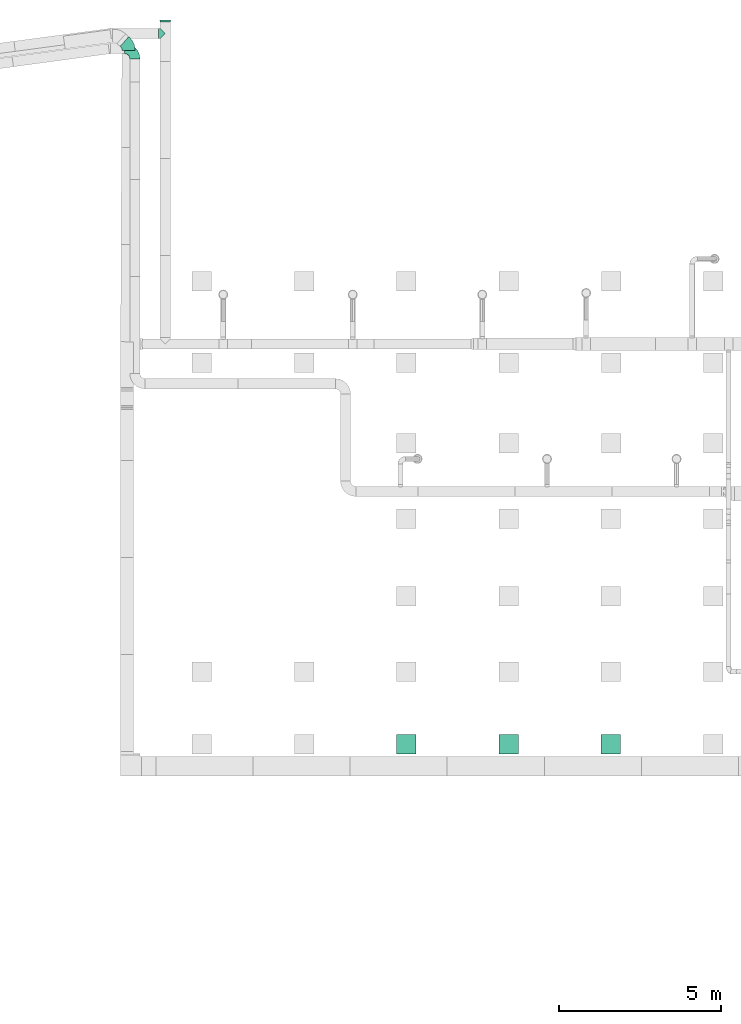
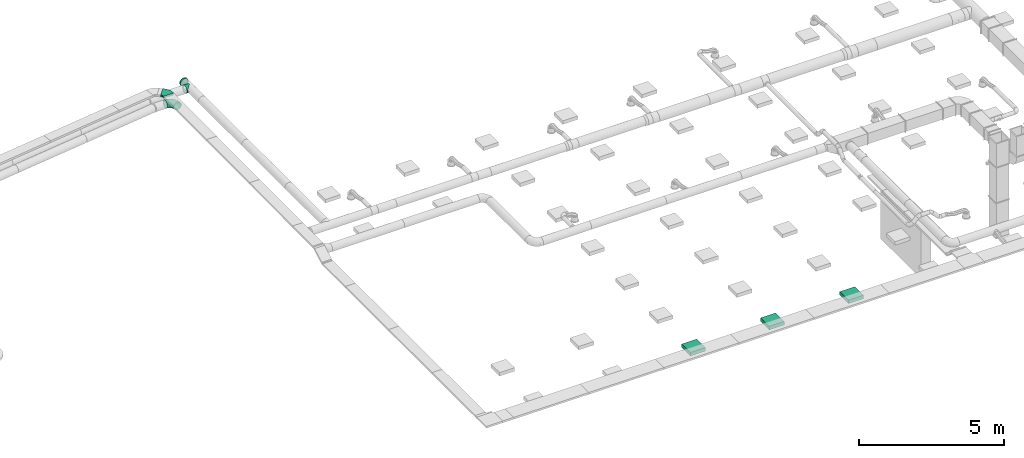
# One storey, part 19 of 119: 4 distribution elements, 2 flow fittings, 1 flow segment.
"""IFC2X3 building model written with IfcOpenShell, lengths in metres."""

from ifc_helpers import new_model, si_unit, direction, frame, frame_2d, origin, place, context, subcontext, project, spatial, rectangle, extrude, open_shell, surface_model, source, transform, mapped, element, save


model = new_model("IFC2X3")

# Units and contexts
model_context = context("Model", 3, precision=1e-05, world=origin(), true_north=direction((-0.4480736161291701, 0.8939966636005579)))
body_context = subcontext(model_context, "Body", "Model", "MODEL_VIEW")
ifc_project = project(units=[si_unit("LENGTHUNIT", "METRE"), si_unit("AREAUNIT", "SQUARE_METRE"), si_unit("VOLUMEUNIT", "CUBIC_METRE"), si_unit("PLANEANGLEUNIT", "RADIAN"), si_unit("THERMODYNAMICTEMPERATUREUNIT", "KELVIN"), si_unit("MASSUNIT", "GRAM", prefix="KILO"), si_unit("TIMEUNIT", "SECOND")], contexts=[model_context])

# Site, building, storey
site_placement = place(None, origin())
site = spatial("IfcSite", under=ifc_project, at=site_placement, Name="Site 1", CompositionType="ELEMENT")
building_placement = place(site_placement, origin())
building = spatial("IfcBuilding", under=site, at=building_placement, Name="Undefined", CompositionType="ELEMENT")
storey_placement = place(building_placement, frame((0.0, 0.0, 5.4)))
storey = spatial("IfcBuildingStorey", under=building, at=storey_placement, Name="R+1", CompositionType="ELEMENT", Elevation=5.4)

# Flow fittings
shared_shape_1 = source(origin(), body_context, "Body", "SurfaceModel", [
    surface_model("IfcFaceBasedSurfaceModel", [(0.12334725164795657, 0.0, -1.110223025e-15), (0.12264675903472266, 0.04110978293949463, -7.77156117e-16), (0.0007004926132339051, 0.041109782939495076, -7.77156117e-16), (0.0, 0.0, 0.0), (-0.1170905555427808, 0.04519480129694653, -0.031296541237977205), (-0.11914429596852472, 0.004131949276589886, -0.0316560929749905), (-0.22269912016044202, 0.05308645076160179, -0.0917568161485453), (-0.2259661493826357, 0.01211426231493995, -0.09281096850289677), (-0.3089281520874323, 0.06424692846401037, -0.1772605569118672), (-0.313185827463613, 0.023402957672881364, -0.17929702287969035), (-0.3699012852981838, 0.07791566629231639, -0.2819808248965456), (-0.3748594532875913, 0.03722872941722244, -0.285220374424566), (-0.4014633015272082, 0.09316116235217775, -0.39878110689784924), (-0.4067840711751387, 0.05264937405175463, -0.40336252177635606), (0.12059301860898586, 0.08079531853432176, -0.01055203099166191), (0.0027542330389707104, 0.08079531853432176, -0.01055203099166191), (-0.11106929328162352, 0.08474274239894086, -0.04079441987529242), (-0.21312067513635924, 0.09236857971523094, -0.09921822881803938), (-0.2964452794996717, 0.1031531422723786, -0.18184197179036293), (-0.3553646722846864, 0.11636147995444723, -0.2830349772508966), (-0.38586359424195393, 0.131093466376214, -0.39590110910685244), (0.11732598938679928, 0.11635210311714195, -0.03093698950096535), (0.006021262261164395, 0.1163521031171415, -0.030936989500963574), (-0.10149084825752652, 0.12008064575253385, -0.05950246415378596), (-0.19788356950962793, 0.12728363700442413, -0.11468672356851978), (-0.2765878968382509, 0.13747020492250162, -0.19272905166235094), (-0.3322402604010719, 0.14994615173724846, -0.28831099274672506), (-0.36104804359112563, 0.16386126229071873, -0.3949187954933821), (0.11306831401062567, 0.14535700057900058, -0.05976567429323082), (0.010278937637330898, 0.14535700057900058, -0.05976567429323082), (-0.08900797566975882, 0.14880029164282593, -0.08614575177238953), (-0.17802618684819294, 0.15545221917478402, -0.13710814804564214), (-0.25070925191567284, 0.16485946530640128, -0.2091798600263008), (-0.3021039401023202, 0.1763809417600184, -0.29744931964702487), (-0.32870778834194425, 0.189231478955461, -0.395901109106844), (0.10811014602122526, 0.16583337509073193, -0.09507345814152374), (0.015237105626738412, 0.16583337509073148, -0.09507345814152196), (-0.07447136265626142, 0.16894448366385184, -0.1189085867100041), (-0.15490177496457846, 0.17495468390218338, -0.16495451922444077), (-0.22057293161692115, 0.1834543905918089, -0.230073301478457), (-0.26700945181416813, 0.1938643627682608, -0.3098271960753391), (-0.2910467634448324, 0.20547517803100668, -0.3987811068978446), (0.10278937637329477, 0.17638579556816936, -0.13445417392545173), (0.020557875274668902, 0.17638579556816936, -0.1344541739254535), (-0.05887165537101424, 0.17914042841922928, -0.15555823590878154), (-0.13008622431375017, 0.18446197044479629, -0.1963281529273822), (-0.18823267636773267, 0.19198776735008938, -0.2539855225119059), (-0.22934842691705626, 0.20120494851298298, -0.324601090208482), (-0.2506315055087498, 0.21148537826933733, -0.40336252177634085), (0.09746860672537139, 0.17629513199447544, -0.17522409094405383), (0.025878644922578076, 0.17629513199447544, -0.17522409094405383), (-0.043271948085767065, 0.17869328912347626, -0.19359708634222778), (-0.10527067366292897, 0.18332617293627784, -0.22909098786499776), (-0.1558924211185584, 0.1898780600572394, -0.2792869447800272), (-0.1916874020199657, 0.19790245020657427, -0.3407641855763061), (-0.21021624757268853, 0.20685249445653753, -0.40933313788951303), (0.09251043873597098, 0.1655675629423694, -0.2146048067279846), (0.030836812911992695, 0.1655675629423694, -0.21460480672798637), (-0.028735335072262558, 0.1676335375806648, -0.2304328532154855), (-0.0821462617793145, 0.17162469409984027, -0.261010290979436), (-0.1257561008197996, 0.1772690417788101, -0.3042533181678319), (-0.1565929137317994, 0.18418192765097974, -0.35721499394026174), (-0.17255522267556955, 0.1918922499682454, -0.4162860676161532), (0.08825276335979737, 0.14493415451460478, -0.24991259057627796), (0.0350944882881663, 0.14493415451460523, -0.2499125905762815), (-0.01625246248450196, 0.1467148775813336, -0.2635552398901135), (-0.06228887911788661, 0.15015497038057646, -0.28991081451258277), (-0.09987745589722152, 0.15501999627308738, -0.32718322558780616), (-0.1264565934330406, 0.16097841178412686, -0.3728324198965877), (-0.14021496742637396, 0.16762416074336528, -0.4237474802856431), (0.08498573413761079, 0.11580103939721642, -0.27874127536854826), (0.03836151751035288, 0.11580103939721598, -0.2787412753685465), (-0.0066740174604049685, 0.11736288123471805, -0.2907070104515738), (-0.0470517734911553, 0.12038012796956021, -0.3138230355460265), (-0.08002007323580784, 0.12464715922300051, -0.34651403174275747), (-0.10333218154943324, 0.1298731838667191, -0.3865521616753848), (-0.11539941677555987, 0.13570205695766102, -0.43120889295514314), (0.08293199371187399, 0.08015359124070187, -0.2991262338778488), (0.04041525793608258, 0.08015359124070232, -0.2991262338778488), (-0.0006527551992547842, 0.08157783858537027, -0.31003781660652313), (-0.037473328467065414, 0.08432927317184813, -0.3311173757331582), (-0.06753720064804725, 0.08822038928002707, -0.36092837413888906), (-0.08879556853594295, 0.09298601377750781, -0.3974392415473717), (-0.0997997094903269, 0.09830137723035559, -0.438161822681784), (0.08223150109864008, 0.040421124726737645, -0.30967826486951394), (0.0411157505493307, 0.040421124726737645, -0.30967826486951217), (0.001400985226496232, 0.04179844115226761, -0.32023029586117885), (-0.03420629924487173, 0.044459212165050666, -0.34061525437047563), (-0.06327952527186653, 0.04822211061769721, -0.3694439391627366), (-0.08383740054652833, 0.052830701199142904, -0.4047517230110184), (-0.0944789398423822, 0.057970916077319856, -0.44413243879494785), (0.08293199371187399, -0.0006886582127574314, -0.3096782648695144), (0.04041525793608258, -0.0006886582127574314, -0.3096782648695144), (-0.0006527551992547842, 0.0007355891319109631, -0.3205898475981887), (-0.037473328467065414, 0.0034870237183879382, -0.34166940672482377), (-0.06753720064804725, 0.00737813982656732, -0.37148040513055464), (-0.08879556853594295, 0.012143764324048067, -0.4079912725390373), (-0.0997997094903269, 0.017459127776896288, -0.44871385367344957), (0.08498573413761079, -0.040374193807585, -0.29912623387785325), (0.03836151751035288, -0.040374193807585, -0.2991262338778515), (-0.0066740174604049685, -0.03881235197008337, -0.3110919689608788), (-0.0470517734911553, -0.03579510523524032, -0.33420799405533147), (-0.08002007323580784, -0.031528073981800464, -0.36689899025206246), (-0.10333218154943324, -0.02630204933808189, -0.4069371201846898), (-0.11539941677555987, -0.020473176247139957, -0.45159385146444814), (0.08825276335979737, -0.07593097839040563, -0.2787412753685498), (0.0350944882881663, -0.07593097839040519, -0.27874127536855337), (-0.01625246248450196, -0.0741502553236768, -0.29238392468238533), (-0.06228887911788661, -0.07071016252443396, -0.3187394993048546), (-0.09987745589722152, -0.06584513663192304, -0.356011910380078), (-0.1264565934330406, -0.05988672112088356, -0.40166110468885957), (-0.14021496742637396, -0.05324097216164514, -0.4525761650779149), (0.09251043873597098, -0.10493587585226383, -0.2499125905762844), (0.030836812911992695, -0.10493587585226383, -0.24991259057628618), (-0.028735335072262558, -0.10286990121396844, -0.2657406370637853), (-0.0821462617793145, -0.09887874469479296, -0.2963180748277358), (-0.1257561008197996, -0.09323439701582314, -0.3395611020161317), (-0.1565929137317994, -0.0863215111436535, -0.39252277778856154), (-0.17255522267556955, -0.07861118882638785, -0.451593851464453), (0.09746860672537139, -0.12541225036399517, -0.21460480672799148), (0.025878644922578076, -0.12541225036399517, -0.21460480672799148), (-0.043271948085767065, -0.12301409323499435, -0.23297780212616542), (-0.10527067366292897, -0.11838120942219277, -0.2684717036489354), (-0.1558924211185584, -0.11182932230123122, -0.31866766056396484), (-0.1916874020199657, -0.10380493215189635, -0.38014490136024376), (-0.21021624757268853, -0.09485488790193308, -0.4487138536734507), (0.10278937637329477, -0.13596467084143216, -0.1752240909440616), (0.020557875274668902, -0.13596467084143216, -0.17522409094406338), (-0.05887165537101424, -0.1332100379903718, -0.19632815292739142), (-0.13008622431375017, -0.12788849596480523, -0.23709806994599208), (-0.18823267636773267, -0.12036269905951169, -0.2947554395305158), (-0.22934842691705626, -0.11114551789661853, -0.36537100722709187), (-0.2506315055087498, -0.10086508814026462, -0.44413243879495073), (0.10811014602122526, -0.13587400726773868, -0.13445417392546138), (0.015237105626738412, -0.13587400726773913, -0.1344541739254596), (-0.07447136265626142, -0.13276289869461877, -0.15828930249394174), (-0.15490177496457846, -0.12675269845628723, -0.2043352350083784), (-0.22057293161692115, -0.11825299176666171, -0.26945401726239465), (-0.26700945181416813, -0.10784301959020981, -0.34920791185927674), (-0.2910467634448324, -0.09623220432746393, -0.4381618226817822), (0.11306831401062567, -0.12514643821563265, -0.09507345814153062), (0.010278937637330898, -0.12514643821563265, -0.09507345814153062), (-0.08900797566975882, -0.1217031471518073, -0.12145353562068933), (-0.17802618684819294, -0.11505121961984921, -0.17241593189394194), (-0.25070925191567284, -0.10564397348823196, -0.2444876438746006), (-0.3021039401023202, -0.09412249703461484, -0.33275710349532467), (-0.32870778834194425, -0.08127195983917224, -0.4312088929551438), (0.11732598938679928, -0.10451302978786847, -0.05976567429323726), (0.006021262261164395, -0.10451302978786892, -0.05976567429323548), (-0.10149084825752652, -0.10078448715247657, -0.08833114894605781), (-0.19788356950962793, -0.09358149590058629, -0.14351540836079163), (-0.2765878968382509, -0.0833949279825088, -0.2215577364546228), (-0.3322402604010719, -0.07091898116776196, -0.3171396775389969), (-0.36104804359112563, -0.057003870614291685, -0.42374748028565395), (0.12059301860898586, -0.07537991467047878, -0.030936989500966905), (0.0027542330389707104, -0.07537991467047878, -0.030936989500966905), (-0.11106929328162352, -0.07143249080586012, -0.06117937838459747), (-0.21312067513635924, -0.06380665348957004, -0.11960318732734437), (-0.2964452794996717, -0.05302209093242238, -0.20222693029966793), (-0.3553646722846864, -0.039813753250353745, -0.3034199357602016), (-0.38586359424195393, -0.025081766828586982, -0.41628606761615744), (0.12264675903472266, -0.039732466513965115, -0.010552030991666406), (0.0007004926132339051, -0.039732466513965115, -0.010552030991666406), (-0.1170905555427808, -0.03564744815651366, -0.04184857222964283), (-0.22269912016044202, -0.027755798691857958, -0.10230884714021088), (-0.3089281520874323, -0.016595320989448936, -0.18781258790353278), (-0.3699012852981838, -0.002926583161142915, -0.29253285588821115), (-0.4014633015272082, 0.012318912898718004, -0.4093331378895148)], [open_shell([[[0, 1, 2, 3]], [[3, 2, 4, 5]], [[5, 4, 6, 7]], [[7, 6, 8, 9]], [[9, 8, 10, 11]], [[11, 10, 12, 13]], [[1, 14, 15, 2]], [[2, 15, 16, 4]], [[4, 16, 17, 6]], [[6, 17, 18, 8]], [[8, 18, 19, 10]], [[10, 19, 20, 12]], [[14, 21, 22, 15]], [[15, 22, 23, 16]], [[16, 23, 24, 17]], [[17, 24, 25, 18]], [[18, 25, 26, 19]], [[19, 26, 27, 20]], [[21, 28, 29, 22]], [[22, 29, 30, 23]], [[23, 30, 31, 24]], [[24, 31, 32, 25]], [[25, 32, 33, 26]], [[26, 33, 34, 27]], [[28, 35, 36, 29]], [[29, 36, 37, 30]], [[30, 37, 38, 31]], [[31, 38, 39, 32]], [[32, 39, 40, 33]], [[33, 40, 41, 34]], [[35, 42, 43, 36]], [[36, 43, 44, 37]], [[37, 44, 45, 38]], [[38, 45, 46, 39]], [[39, 46, 47, 40]], [[40, 47, 48, 41]], [[42, 49, 50, 43]], [[43, 50, 51, 44]], [[44, 51, 52, 45]], [[45, 52, 53, 46]], [[46, 53, 54, 47]], [[47, 54, 55, 48]], [[49, 56, 57, 50]], [[50, 57, 58, 51]], [[51, 58, 59, 52]], [[52, 59, 60, 53]], [[53, 60, 61, 54]], [[54, 61, 62, 55]], [[56, 63, 64, 57]], [[57, 64, 65, 58]], [[58, 65, 66, 59]], [[59, 66, 67, 60]], [[60, 67, 68, 61]], [[61, 68, 69, 62]], [[63, 70, 71, 64]], [[64, 71, 72, 65]], [[65, 72, 73, 66]], [[66, 73, 74, 67]], [[67, 74, 75, 68]], [[68, 75, 76, 69]], [[70, 77, 78, 71]], [[71, 78, 79, 72]], [[72, 79, 80, 73]], [[73, 80, 81, 74]], [[74, 81, 82, 75]], [[75, 82, 83, 76]], [[77, 84, 85, 78]], [[78, 85, 86, 79]], [[79, 86, 87, 80]], [[80, 87, 88, 81]], [[81, 88, 89, 82]], [[82, 89, 90, 83]], [[84, 91, 92, 85]], [[85, 92, 93, 86]], [[86, 93, 94, 87]], [[87, 94, 95, 88]], [[88, 95, 96, 89]], [[89, 96, 97, 90]], [[91, 98, 99, 92]], [[92, 99, 100, 93]], [[93, 100, 101, 94]], [[94, 101, 102, 95]], [[95, 102, 103, 96]], [[96, 103, 104, 97]], [[98, 105, 106, 99]], [[99, 106, 107, 100]], [[100, 107, 108, 101]], [[101, 108, 109, 102]], [[102, 109, 110, 103]], [[103, 110, 111, 104]], [[105, 112, 113, 106]], [[106, 113, 114, 107]], [[107, 114, 115, 108]], [[108, 115, 116, 109]], [[109, 116, 117, 110]], [[110, 117, 118, 111]], [[112, 119, 120, 113]], [[113, 120, 121, 114]], [[114, 121, 122, 115]], [[115, 122, 123, 116]], [[116, 123, 124, 117]], [[117, 124, 125, 118]], [[119, 126, 127, 120]], [[120, 127, 128, 121]], [[121, 128, 129, 122]], [[122, 129, 130, 123]], [[123, 130, 131, 124]], [[124, 131, 132, 125]], [[126, 133, 134, 127]], [[127, 134, 135, 128]], [[128, 135, 136, 129]], [[129, 136, 137, 130]], [[130, 137, 138, 131]], [[131, 138, 139, 132]], [[133, 140, 141, 134]], [[134, 141, 142, 135]], [[135, 142, 143, 136]], [[136, 143, 144, 137]], [[137, 144, 145, 138]], [[138, 145, 146, 139]], [[140, 147, 148, 141]], [[141, 148, 149, 142]], [[142, 149, 150, 143]], [[143, 150, 151, 144]], [[144, 151, 152, 145]], [[145, 152, 153, 146]], [[147, 154, 155, 148]], [[148, 155, 156, 149]], [[149, 156, 157, 150]], [[150, 157, 158, 151]], [[151, 158, 159, 152]], [[152, 159, 160, 153]], [[154, 161, 162, 155]], [[155, 162, 163, 156]], [[156, 163, 164, 157]], [[157, 164, 165, 158]], [[158, 165, 166, 159]], [[159, 166, 167, 160]], [[161, 0, 3, 162]], [[162, 3, 5, 163]], [[163, 5, 7, 164]], [[164, 7, 9, 165]], [[165, 9, 11, 166]], [[166, 11, 13, 167]]])]),
])
flow_fitting_1_placement = place(storey_placement, origin())
element("IfcFlowFitting", 1, at=flow_fitting_1_placement, inside=storey, Name="Coude", ObjectType="Coude", context=body_context, shape_type="MappedRepresentation", body=[
    mapped(shared_shape_1, transform((27.706688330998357, 29.43443806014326, 2.775), x_axis=(0.13052619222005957, -0.9914448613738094, 0.0), y_axis=(-0.12832103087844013, -0.016893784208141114, -0.9915887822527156), z_axis=(0.983105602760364, 0.12942830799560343, -0.1294283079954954))),
])
shared_shape_2 = source(origin(), body_context, "Body", "SurfaceModel", [
    surface_model("IfcFaceBasedSurfaceModel", [(0.0, 0.04111575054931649, 0.0), (0.0, 0.0, 0.0), (0.05930000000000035, 0.0, 0.0), (0.05930000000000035, 0.04111575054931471, 0.0), (0.0, -0.03971476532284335, -0.010641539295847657), (0.05930000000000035, -0.039714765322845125, -0.010641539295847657), (0.0, -0.0753220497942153, -0.0311994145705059), (0.05930000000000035, -0.07532204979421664, -0.0311994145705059), (0.0, -0.10439527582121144, -0.060272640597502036), (0.05930000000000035, -0.10439527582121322, -0.06027264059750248), (0.0, -0.12495315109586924, -0.09587992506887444), (0.05930000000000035, -0.12495315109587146, -0.095879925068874), (0.0, -0.13559469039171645, -0.13559469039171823), (0.05930000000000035, -0.13559469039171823, -0.13559469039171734), (0.0, -0.135594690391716, -0.17671044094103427), (0.05930000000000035, -0.13559469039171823, -0.17671044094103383), (0.0, -0.1249531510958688, -0.21642520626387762), (0.05930000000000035, -0.12495315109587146, -0.21642520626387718), (0.0, -0.10439527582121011, -0.2520324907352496), (0.05930000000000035, -0.10439527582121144, -0.2520324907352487), (0.0, -0.07532204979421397, -0.2811057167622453), (0.05930000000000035, -0.07532204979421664, -0.2811057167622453), (0.0, -0.039714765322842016, -0.3016635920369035), (0.05930000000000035, -0.03971476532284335, -0.3016635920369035), (0.0, 1.776356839e-15, -0.3123051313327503), (0.05930000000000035, -1.776356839e-15, -0.3123051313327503), (0.0, 0.041115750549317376, -0.31230513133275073), (0.05930000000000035, 0.04111575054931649, -0.3123051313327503), (0.0, 0.08083051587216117, -0.30166359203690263), (0.05930000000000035, 0.08083051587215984, -0.3016635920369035), (0.0, 0.11643780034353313, -0.28110571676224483), (0.05930000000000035, 0.11643780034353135, -0.2811057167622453), (0.0, 0.14551102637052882, -0.25203249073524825), (0.05930000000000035, 0.14551102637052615, -0.2520324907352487), (0.0, 0.16606890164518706, -0.2164252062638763), (0.05930000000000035, 0.1660689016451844, -0.2164252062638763), (0.0, 0.17671044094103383, -0.1767104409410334), (0.05930000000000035, 0.17671044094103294, -0.17671044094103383), (0.0, 0.17671044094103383, -0.1355946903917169), (0.05930000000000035, 0.17671044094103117, -0.13559469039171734), (0.0, 0.16606890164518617, -0.09587992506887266), (0.05930000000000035, 0.1660689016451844, -0.095879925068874), (0.0, 0.14551102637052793, -0.06027264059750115), (0.05930000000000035, 0.14551102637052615, -0.06027264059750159), (0.0, 0.1164378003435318, -0.031199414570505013), (0.05930000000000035, 0.11643780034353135, -0.0311994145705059), (0.0, 0.08083051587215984, -0.010641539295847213), (0.05930000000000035, 0.08083051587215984, -0.010641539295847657), (0.05930000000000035, 0.04248627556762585, 0.010410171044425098), (0.05930000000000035, -0.0013705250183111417, 0.01041017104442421), (0.060000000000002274, -0.0013705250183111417, 0.01041017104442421), (0.060000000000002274, 0.04248627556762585, 0.010410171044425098), (0.05930000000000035, -0.0437329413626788, -0.0009408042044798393), (0.060000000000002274, -0.0437329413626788, -0.0009408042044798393), (0.05930000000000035, -0.08171404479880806, -0.022869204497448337), (0.060000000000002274, -0.08171404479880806, -0.022869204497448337), (0.05930000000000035, -0.1127254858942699, -0.05388064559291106), (0.060000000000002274, -0.1127254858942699, -0.05388064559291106), (0.05930000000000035, -0.13465388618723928, -0.0918617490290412), (0.060000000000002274, -0.13465388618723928, -0.0918617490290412), (0.05930000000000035, -0.14600486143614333, -0.1342241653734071), (0.060000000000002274, -0.14600486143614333, -0.1342241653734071), (0.05930000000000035, -0.14600486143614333, -0.17808096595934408), (0.060000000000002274, -0.14600486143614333, -0.17808096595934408), (0.05930000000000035, -0.1346538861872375, -0.22044338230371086), (0.060000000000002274, -0.1346538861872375, -0.22044338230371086), (0.05930000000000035, -0.1127254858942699, -0.258424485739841), (0.060000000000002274, -0.1127254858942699, -0.258424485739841), (0.05930000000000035, -0.08171404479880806, -0.2894359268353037), (0.060000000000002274, -0.08171404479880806, -0.2894359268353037), (0.05930000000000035, -0.043732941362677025, -0.31136432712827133), (0.060000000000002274, -0.043732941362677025, -0.31136432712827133), (0.05930000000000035, -0.0013705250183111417, -0.3227153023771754), (0.060000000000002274, -0.0013705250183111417, -0.3227153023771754), (0.05930000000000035, 0.04248627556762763, -0.3227153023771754), (0.060000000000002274, 0.04248627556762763, -0.3227153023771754), (0.05930000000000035, 0.08484869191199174, -0.31136432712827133), (0.060000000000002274, 0.08484869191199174, -0.31136432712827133), (0.05930000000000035, 0.12282979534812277, -0.28943592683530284), (0.060000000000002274, 0.12282979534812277, -0.28943592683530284), (0.05930000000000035, 0.1538412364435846, -0.2584244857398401), (0.060000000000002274, 0.1538412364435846, -0.2584244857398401), (0.05930000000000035, 0.175769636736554, -0.22044338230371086), (0.060000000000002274, 0.175769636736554, -0.22044338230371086), (0.05930000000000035, 0.18712061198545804, -0.17808096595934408), (0.060000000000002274, 0.18712061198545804, -0.17808096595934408), (0.05930000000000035, 0.18712061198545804, -0.1342241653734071), (0.060000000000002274, 0.18712061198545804, -0.1342241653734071), (0.05930000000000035, 0.17576963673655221, -0.09186174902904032), (0.060000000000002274, 0.17576963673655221, -0.09186174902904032), (0.05930000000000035, 0.1538412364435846, -0.05388064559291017), (0.060000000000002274, 0.1538412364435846, -0.05388064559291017), (0.05930000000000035, 0.122829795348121, -0.02286920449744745), (0.060000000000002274, 0.122829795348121, -0.02286920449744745), (0.05930000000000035, 0.08484869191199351, -0.0009408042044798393), (0.060000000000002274, 0.08484869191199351, -0.0009408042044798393), (0.05930000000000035, 0.020557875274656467, -0.1561525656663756), (0.060000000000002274, 0.020557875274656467, -0.1561525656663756)], [open_shell([[[0, 1, 2, 3]], [[1, 4, 5, 2]], [[4, 6, 7, 5]], [[6, 8, 9, 7]], [[8, 10, 11, 9]], [[10, 12, 13, 11]], [[12, 14, 15, 13]], [[14, 16, 17, 15]], [[16, 18, 19, 17]], [[18, 20, 21, 19]], [[20, 22, 23, 21]], [[22, 24, 25, 23]], [[24, 26, 27, 25]], [[26, 28, 29, 27]], [[28, 30, 31, 29]], [[30, 32, 33, 31]], [[32, 34, 35, 33]], [[34, 36, 37, 35]], [[36, 38, 39, 37]], [[38, 40, 41, 39]], [[40, 42, 43, 41]], [[42, 44, 45, 43]], [[44, 46, 47, 45]], [[46, 0, 3, 47]], [[48, 49, 50, 51]], [[49, 52, 53, 50]], [[52, 54, 55, 53]], [[54, 56, 57, 55]], [[56, 58, 59, 57]], [[58, 60, 61, 59]], [[60, 62, 63, 61]], [[62, 64, 65, 63]], [[64, 66, 67, 65]], [[66, 68, 69, 67]], [[68, 70, 71, 69]], [[70, 72, 73, 71]], [[72, 74, 75, 73]], [[74, 76, 77, 75]], [[76, 78, 79, 77]], [[78, 80, 81, 79]], [[80, 82, 83, 81]], [[82, 84, 85, 83]], [[84, 86, 87, 85]], [[86, 88, 89, 87]], [[88, 90, 91, 89]], [[90, 92, 93, 91]], [[92, 94, 95, 93]], [[94, 48, 51, 95]], [[96, 49, 48]], [[96, 52, 49]], [[96, 54, 52]], [[96, 56, 54]], [[96, 58, 56]], [[96, 60, 58]], [[96, 62, 60]], [[96, 64, 62]], [[96, 66, 64]], [[96, 68, 66]], [[96, 70, 68]], [[96, 72, 70]], [[96, 74, 72]], [[96, 76, 74]], [[96, 78, 76]], [[96, 80, 78]], [[96, 82, 80]], [[96, 84, 82]], [[96, 86, 84]], [[96, 88, 86]], [[96, 90, 88]], [[96, 92, 90]], [[96, 94, 92]], [[96, 48, 94]], [[97, 95, 51]], [[97, 93, 95]], [[97, 91, 93]], [[97, 89, 91]], [[97, 87, 89]], [[97, 85, 87]], [[97, 83, 85]], [[97, 81, 83]], [[97, 79, 81]], [[97, 77, 79]], [[97, 75, 77]], [[97, 73, 75]], [[97, 71, 73]], [[97, 69, 71]], [[97, 67, 69]], [[97, 65, 67]], [[97, 63, 65]], [[97, 61, 63]], [[97, 59, 61]], [[97, 57, 59]], [[97, 55, 57]], [[97, 53, 55]], [[97, 50, 53]], [[97, 51, 50]]])]),
])
flow_fitting_2_placement = place(storey_placement, origin())
element("IfcFlowFitting", 2, at=flow_fitting_2_placement, inside=storey, Name="Enddeckel", ObjectType="Enddeckel", context=body_context, shape_type="MappedRepresentation", body=[
    mapped(shared_shape_2, transform((28.544597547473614, 30.450382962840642, 2.902133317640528), x_axis=(0.0, 1.0, 0.0), y_axis=(-0.9914448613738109, 0.0, 0.1305261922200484), z_axis=(0.1305261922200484, 0.0, 0.9914448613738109))),
])

# Flow segment
shared_shape_3 = source(origin(), body_context, "Body", "SurfaceModel", [
    surface_model("IfcFaceBasedSurfaceModel", [(0.005366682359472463, 0.0411157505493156, -3.552713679e-15), (0.0, 0.0, 0.0), (0.05036668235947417, 0.0, 0.0), (0.05036668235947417, 0.0411157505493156, -3.552713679e-15), (-0.015734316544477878, -0.039714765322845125, -0.010641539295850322), (0.05036668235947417, -0.039714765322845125, -0.010641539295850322), (-0.04076399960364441, -0.07532204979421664, -0.03119941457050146), (0.05036668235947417, -0.07532204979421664, -0.03119941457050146), (-0.07338331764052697, -0.10439527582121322, -0.060272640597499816), (0.05036668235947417, -0.10439527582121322, -0.060272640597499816), (-0.11136931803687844, -0.12495315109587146, -0.09587992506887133), (0.05036668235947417, -0.12495315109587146, -0.09587992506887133), (-0.1521333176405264, -0.13559469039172, -0.13559469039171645), (0.05036668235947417, -0.13559469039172, -0.13559469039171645), (-0.11136931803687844, -0.1355946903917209, -0.1767104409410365), (0.05036668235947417, -0.1355946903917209, -0.1767104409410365), (-0.07338331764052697, -0.12495315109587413, -0.21642520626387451), (0.05036668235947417, -0.12495315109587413, -0.21642520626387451), (-0.04076399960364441, -0.10439527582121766, -0.2520324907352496), (0.05036668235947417, -0.10439527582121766, -0.2520324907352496), (-0.015734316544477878, -0.07532204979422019, -0.28110571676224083), (0.05036668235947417, -0.07532204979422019, -0.28110571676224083), (0.0, -0.039714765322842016, -0.3016635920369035), (0.05036668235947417, -0.03971476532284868, -0.30166359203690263), (0.005366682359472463, -6.217248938e-15, -0.31230513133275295), (0.05036668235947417, -6.217248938e-15, -0.31230513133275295), (0.0, 0.041115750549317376, -0.31230513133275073), (0.05036668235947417, 0.04111575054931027, -0.31230513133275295), (-0.015734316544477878, 0.08083051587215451, -0.30166359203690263), (0.05036668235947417, 0.08083051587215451, -0.30166359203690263), (-0.04076399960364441, 0.11643780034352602, -0.2811057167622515), (0.05036668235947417, 0.11643780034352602, -0.2811057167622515), (-0.07338331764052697, 0.1455110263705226, -0.25203249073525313), (0.05036668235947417, 0.1455110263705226, -0.25203249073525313), (-0.11136931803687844, 0.16606890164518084, -0.21642520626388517), (0.05036668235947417, 0.16606890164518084, -0.21642520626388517), (-0.1521333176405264, 0.1767104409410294, -0.17671044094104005), (0.05036668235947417, 0.1767104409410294, -0.17671044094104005), (-0.11136931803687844, 0.17671044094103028, -0.13559469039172), (0.05036668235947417, 0.17671044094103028, -0.13559469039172), (-0.07338331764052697, 0.1660689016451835, -0.09587992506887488), (0.05036668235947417, 0.1660689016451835, -0.09587992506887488), (-0.04076399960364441, 0.14551102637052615, -0.06027264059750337), (0.05036668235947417, 0.14551102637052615, -0.06027264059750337), (-0.015734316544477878, 0.11643780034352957, -0.03119941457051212), (0.05036668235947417, 0.11643780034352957, -0.03119941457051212), (0.0, 0.08083051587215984, -0.010641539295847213), (0.05036668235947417, 0.08083051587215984, -0.010641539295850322)], [open_shell([[[0, 1, 2, 3]], [[1, 4, 5, 2]], [[4, 6, 7, 5]], [[6, 8, 9, 7]], [[8, 10, 11, 9]], [[10, 12, 13, 11]], [[12, 14, 15, 13]], [[14, 16, 17, 15]], [[16, 18, 19, 17]], [[18, 20, 21, 19]], [[20, 22, 23, 21]], [[22, 24, 25, 23]], [[24, 26, 27, 25]], [[26, 28, 29, 27]], [[28, 30, 31, 29]], [[30, 32, 33, 31]], [[32, 34, 35, 33]], [[34, 36, 37, 35]], [[36, 38, 39, 37]], [[38, 40, 41, 39]], [[40, 42, 43, 41]], [[42, 44, 45, 43]], [[44, 46, 47, 45]], [[46, 0, 3, 47]]])]),
])
flow_segment_placement = place(storey_placement, origin())
element("IfcFlowSegment", 3, at=flow_segment_placement, inside=storey, Name="Piquage équerre circulaire", ObjectType="Piquage équerre circulaire", context=body_context, shape_type="MappedRepresentation", body=[
    mapped(shared_shape_3, transform((28.35170023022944, 30.250100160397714, 2.7092360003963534), x_axis=(-1.0, 0.0, 0.0), y_axis=(0.0, 0.13052619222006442, 0.9914448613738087), z_axis=(0.0, 0.9914448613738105, -0.13052619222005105))),
])

# Distribution elements
shared_shape_4 = source(origin(), body_context, "Body", "SurfaceModel", [
    surface_model("IfcFaceBasedSurfaceModel", [(0.0, 0.049999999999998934, 0.0), (0.0, 0.0, 0.0), (0.08000000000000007, 0.0, 5.82867088e-16), (0.08000000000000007, 0.04999999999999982, 0.0), (0.0, -0.037735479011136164, -0.017197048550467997), (0.07999999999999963, -0.037735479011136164, -0.017197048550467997), (0.0, -0.07053843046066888, -0.054932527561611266), (0.07999999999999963, -0.07053843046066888, -0.054932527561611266), (0.0, -0.37242226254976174, 0.20749108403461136), (0.0, -0.3396193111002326, 0.24522656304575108), (0.07999999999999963, -0.3396193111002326, 0.24522656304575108), (0.07999999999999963, -0.37242226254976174, 0.20749108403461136), (0.07999999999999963, -0.24288779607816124, 0.3288212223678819), (0.0, -0.24288779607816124, 0.3288212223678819), (0.07999999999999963, -0.12655127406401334, 0.38183882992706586), (0.0, -0.12655127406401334, 0.38183882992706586), (0.08000000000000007, 0.0, 0.3999999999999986), (0.0, 0.0, 0.3999999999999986), (-4.4408921e-16, 0.05000000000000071, 0.3999999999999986), (0.07999999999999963, 0.05000000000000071, 0.3999999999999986)], [open_shell([[[0, 1, 2, 3]], [[1, 4, 5, 2]], [[4, 6, 7, 5]], [[8, 9, 10, 11]], [[10, 12, 13, 9]], [[12, 14, 15, 13]], [[14, 16, 17, 15]], [[17, 18, 19, 16]], [[2, 3, 19]], [[5, 2, 19]], [[7, 5, 19]], [[11, 7, 19]], [[10, 11, 19]], [[12, 10, 19]], [[14, 12, 19]], [[16, 14, 19]], [[18, 0, 1]], [[18, 1, 4]], [[18, 4, 6]], [[18, 6, 8]], [[18, 8, 9]], [[18, 9, 13]], [[18, 13, 15]], [[18, 15, 17]]])]),
])
distribution_element_1_placement = place(storey_placement, origin())
element("IfcDistributionElement", 4, at=distribution_element_1_placement, inside=storey, Name="Coude", ObjectType="Coude", context=body_context, shape_type="MappedRepresentation", body=[
    mapped(shared_shape_4, transform((27.146346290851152, 29.661989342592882, 3.164999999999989), x_axis=(0.0, 0.0, -1.0), y_axis=(-0.7518079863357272, 0.6593820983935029, 0.0), z_axis=(0.6593820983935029, 0.7518079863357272, 0.0))),
])
distribution_element_2_placement = place(storey_placement, origin())
element("IfcDistributionElement", 5, at=distribution_element_2_placement, inside=storey, Name="Decken-Rechteckleuchte mit Rahmen AP", ObjectType="Decken-Rechteckleuchte mit Rahmen AP", context=body_context, shape_type="SweptSolid", body=[
    extrude(rectangle(XDim=0.6000000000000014, YDim=0.6000000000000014, at=frame_2d((3.552713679e-15, 0.0), x_axis=(0.0, 1.0))), frame((35.95181062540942, 8.1375, 2.5500000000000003), z_axis=(0.0, 0.0, -1.0), x_axis=(1.0, 0.0, 0.0)), (0.0, 0.0, 1.0), 0.15),
])
distribution_element_3_placement = place(storey_placement, origin())
element("IfcDistributionElement", 6, at=distribution_element_3_placement, inside=storey, Name="Decken-Rechteckleuchte mit Rahmen AP", ObjectType="Decken-Rechteckleuchte mit Rahmen AP", context=body_context, shape_type="SweptSolid", body=[
    extrude(rectangle(XDim=0.6000000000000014, YDim=0.6000000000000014, at=frame_2d((3.552713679e-15, 0.0), x_axis=(0.0, 1.0))), frame((42.26749495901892, 8.1375, 2.5500000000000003), z_axis=(0.0, 0.0, -1.0), x_axis=(1.0, 0.0, 0.0)), (0.0, 0.0, 1.0), 0.15),
])
distribution_element_4_placement = place(storey_placement, origin())
element("IfcDistributionElement", 7, at=distribution_element_4_placement, inside=storey, Name="Decken-Rechteckleuchte mit Rahmen AP", ObjectType="Decken-Rechteckleuchte mit Rahmen AP", context=body_context, shape_type="SweptSolid", body=[
    extrude(rectangle(XDim=0.6000000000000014, YDim=0.6000000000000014, at=frame_2d((3.552713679e-15, 0.0), x_axis=(0.0, 1.0))), frame((39.109652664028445, 8.1375, 2.5500000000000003), z_axis=(0.0, 0.0, -1.0), x_axis=(1.0, 0.0, 0.0)), (0.0, 0.0, 1.0), 0.15),
])

save(model, "model.ifc")
